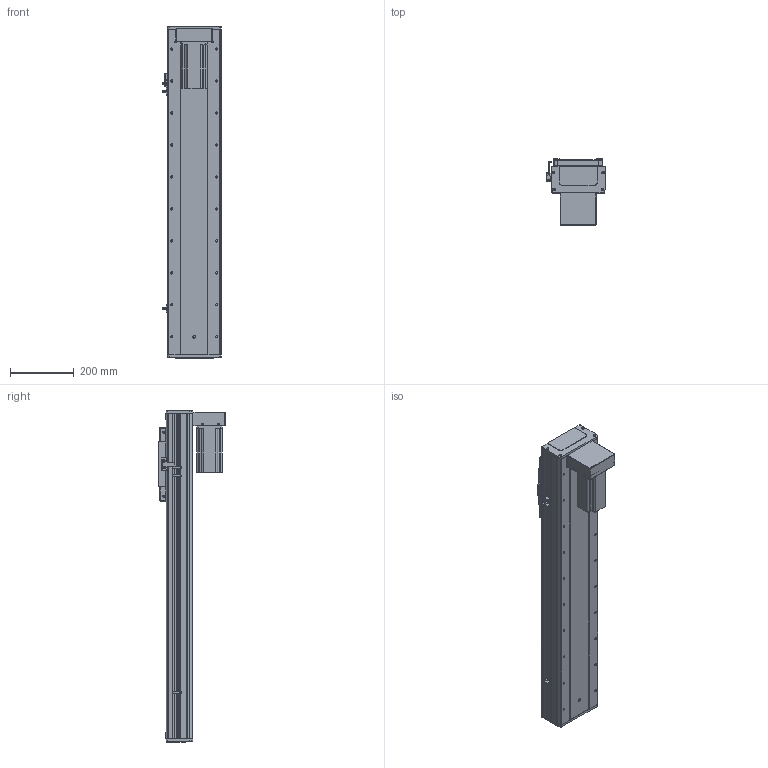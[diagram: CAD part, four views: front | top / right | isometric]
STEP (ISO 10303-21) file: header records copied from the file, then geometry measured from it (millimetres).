
FILE_DESCRIPTION (( 'STEP AP203' ), '1' );
FILE_NAME ('RY170F-L2010-300-BK.SLDASM_700.step', '2021-03-02T08:55:59', ( '盈信电脑' ), ( '东莞市道滘镇水果街19号' ), 'SwSTEP 2.0', 'SolidWorks 2012', '' );
FILE_SCHEMA (( 'CONFIG_CONTROL_DESIGN' ));
Length unit declared in the file: millimetre
Products named in the file (20): RY170F-詩湍揤踡輸; 滅袉蝶18-24; RY170F-揤踡謫假蚾粣; 侐源滅袉蝶; 覜茼ん672; RY170F俋离覜茼え; RY170F-綴裔啣; RY100F-詩湍揤踡謫; RY170F-丝杆铝滑块连接板; 滅袉蝶18-10; RY170F-佪裝臏賑輸20蹟譫; RY170F-滅鳥奻裔; RY170F-300眻蟀倰第菁釱-BK_700; RY170F-300眻蟀倰第奻裔啣-BK_700; RY170F-300眻蟀祥凄詩湍-MK_700; RY170F-L2010-300-BK.SLDASM_700; RY170F狟殏萇儂欶; RY170狟殏詩湍假蚾輸; 怢湛750W萇儂ㄗ80遺ㄘ; RY170F-狟殏萇儂假蚾啣(750W)
Assembly tree (25 placements, depth 2):
  RY170F-L2010-300-BK.SLDASM_700
    RY170F-300眻蟀祥凄詩湍-MK_700
    RY170F-300眻蟀倰第奻裔啣-BK_700  x2
    RY170F-滅鳥奻裔
    RY170F-300眻蟀倰第菁釱-BK_700
    RY170F-佪裝臏賑輸20蹟譫
    RY170F-丝杆铝滑块连接板
    滅袉蝶18-10
    RY100F-詩湍揤踡謫
    RY170F-綴裔啣  x2
    覜茼ん672  x3
    RY170F俋离覜茼え
    RY170F-揤踡謫假蚾粣
    RY170F-詩湍揤踡輸  x2
    滅袉蝶18-24
    侐源滅袉蝶  x2
    RY170F-狟殏萇儂假蚾啣(750W)
    怢湛750W萇儂ㄗ80遺ㄘ
    RY170F狟殏萇儂欶
    RY170狟殏詩湍假蚾輸
Bounding box: 183.7 x 208 x 1038 mm (x, y, z)
Volume: 6269760.8 mm3; surface area: 2031719.8 mm2
Topology: 25 solids, 25 shells, 1850 faces, 5117 edges, 3248 vertices
Faces by surface type: cylinder 880, plane 762, cone 204, bspline 4
Entity records: 51696 total; most frequent: CARTESIAN_POINT 10308, DIRECTION 8394, ORIENTED_EDGE 7982, EDGE_CURVE 3991, AXIS2_PLACEMENT_3D 3030, VERTEX_POINT 2604, VECTOR 2334, LINE 2334
